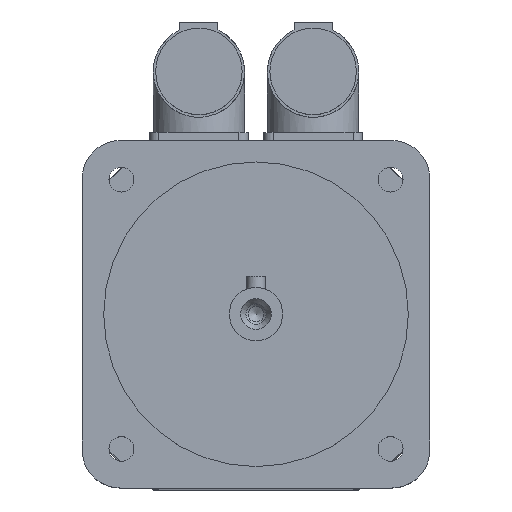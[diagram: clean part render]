
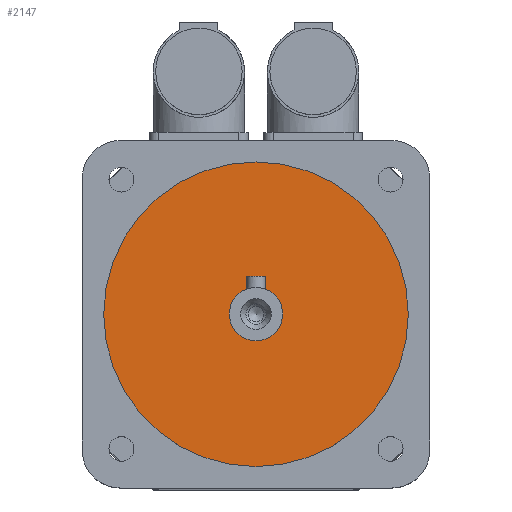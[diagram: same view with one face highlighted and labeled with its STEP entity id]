
A CAD part, top view. The second image highlights one B-rep face of the part: STEP entity #2147.
In plain terms, the highlighted planar face has unit normal (0, 0, 1).
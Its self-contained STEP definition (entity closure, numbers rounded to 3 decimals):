
#364=PLANE('',#2300);
#497=FACE_BOUND('',#679,.T.);
#533=FACE_OUTER_BOUND('',#678,.T.);
#678=EDGE_LOOP('',(#1534));
#679=EDGE_LOOP('',(#1535));
#830=CIRCLE('',#2299,7.);
#831=CIRCLE('',#2301,40.);
#978=VERTEX_POINT('',#3374);
#979=VERTEX_POINT('',#3377);
#1194=EDGE_CURVE('',#978,#978,#830,.T.);
#1195=EDGE_CURVE('',#979,#979,#831,.T.);
#1534=ORIENTED_EDGE('',*,*,#1195,.F.);
#1535=ORIENTED_EDGE('',*,*,#1194,.T.);
#2147=ADVANCED_FACE('',(#533,#497),#364,.T.);
#2299=AXIS2_PLACEMENT_3D('',#3375,#2624,#2625);
#2300=AXIS2_PLACEMENT_3D('',#3376,#2626,#2627);
#2301=AXIS2_PLACEMENT_3D('',#3378,#2628,#2629);
#2624=DIRECTION('center_axis',(0.,0.,-1.));
#2625=DIRECTION('ref_axis',(1.,0.,0.));
#2626=DIRECTION('center_axis',(0.,0.,1.));
#2627=DIRECTION('ref_axis',(1.,0.,0.));
#2628=DIRECTION('center_axis',(0.,0.,-1.));
#2629=DIRECTION('ref_axis',(1.,0.,0.));
#3374=CARTESIAN_POINT('',(0.,7.,253.));
#3375=CARTESIAN_POINT('Origin',(0.,0.,253.));
#3376=CARTESIAN_POINT('Origin',(0.,40.,253.));
#3377=CARTESIAN_POINT('',(0.,40.,253.));
#3378=CARTESIAN_POINT('Origin',(0.,0.,253.));
